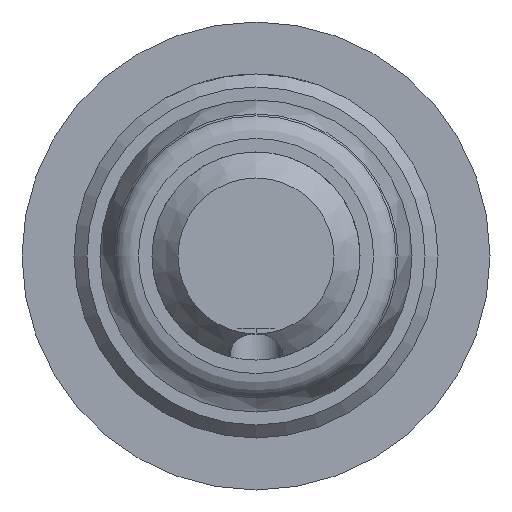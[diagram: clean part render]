
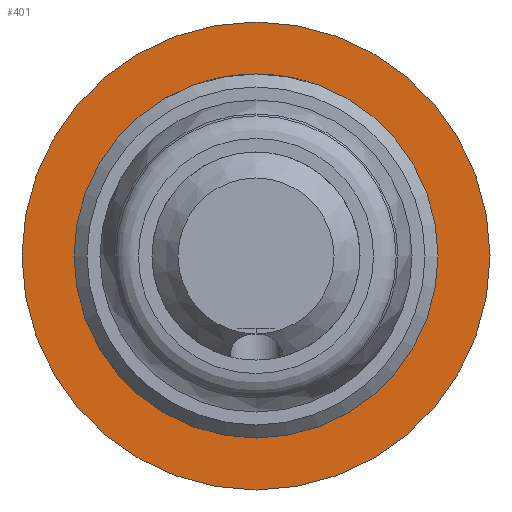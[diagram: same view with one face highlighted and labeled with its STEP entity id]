
A CAD part, left-side view. The second image highlights one B-rep face of the part: STEP entity #401.
In plain terms, the highlighted planar face has unit normal (-1, 0, 0).
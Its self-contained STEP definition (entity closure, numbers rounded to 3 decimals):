
#28=FACE_BOUND('',#108,.T.);
#45=PLANE('',#448);
#70=FACE_OUTER_BOUND('',#107,.T.);
#107=EDGE_LOOP('',(#358));
#108=EDGE_LOOP('',(#359));
#143=CIRCLE('',#447,7.);
#144=CIRCLE('',#449,9.);
#214=VERTEX_POINT('',#780);
#215=VERTEX_POINT('',#783);
#263=EDGE_CURVE('',#214,#214,#143,.T.);
#264=EDGE_CURVE('',#215,#215,#144,.T.);
#358=ORIENTED_EDGE('',*,*,#264,.F.);
#359=ORIENTED_EDGE('',*,*,#263,.T.);
#401=ADVANCED_FACE('',(#70,#28),#45,.T.);
#447=AXIS2_PLACEMENT_3D('',#781,#554,#555);
#448=AXIS2_PLACEMENT_3D('',#782,#556,#557);
#449=AXIS2_PLACEMENT_3D('',#784,#558,#559);
#554=DIRECTION('center_axis',(1.,0.,0.));
#555=DIRECTION('ref_axis',(0.,0.,-1.));
#556=DIRECTION('center_axis',(-1.,0.,0.));
#557=DIRECTION('ref_axis',(0.,0.,1.));
#558=DIRECTION('center_axis',(1.,0.,0.));
#559=DIRECTION('ref_axis',(0.,0.,-1.));
#780=CARTESIAN_POINT('',(62.,7.,0.));
#781=CARTESIAN_POINT('Origin',(62.,0.,0.));
#782=CARTESIAN_POINT('Origin',(62.,9.,0.));
#783=CARTESIAN_POINT('',(62.,9.,0.));
#784=CARTESIAN_POINT('Origin',(62.,0.,0.));
